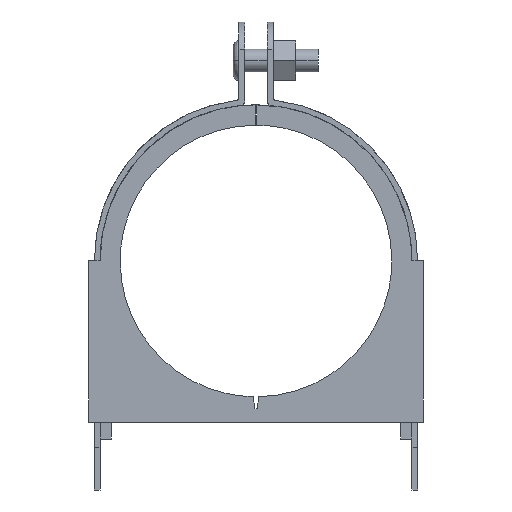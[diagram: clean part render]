
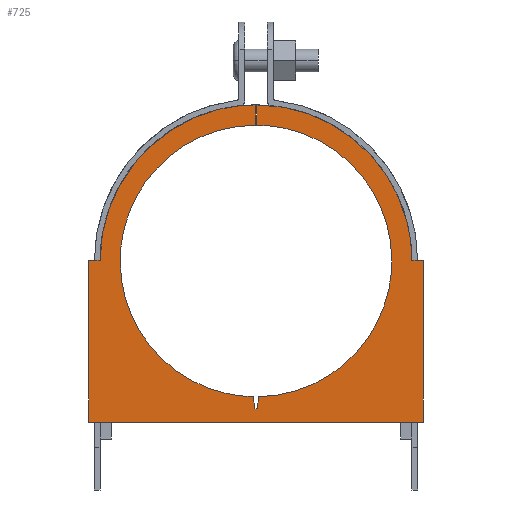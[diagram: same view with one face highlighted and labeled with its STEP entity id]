
A CAD part, front view. The second image highlights one B-rep face of the part: STEP entity #725.
In plain terms, the highlighted planar face has unit normal (0, -1, 0).
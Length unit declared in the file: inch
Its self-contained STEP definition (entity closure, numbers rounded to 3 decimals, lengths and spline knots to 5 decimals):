
#725=ADVANCED_FACE('',(#1429),#1430,.T.);
#1429=FACE_OUTER_BOUND('',#2876,.T.);
#1430=PLANE('',#2877);
#2876=EDGE_LOOP('',(#4141,#4142,#4143,#4144,#4145,#4146,#4147,#4148,#4149,#4150,#4151,#4152,#4153,#4154,#4155,#4156,#4157));
#2877=AXIS2_PLACEMENT_3D('',#4158,#4159,#4160);
#4141=ORIENTED_EDGE('',*,*,#4385,.F.);
#4142=ORIENTED_EDGE('',*,*,#4612,.F.);
#4143=ORIENTED_EDGE('',*,*,#4175,.F.);
#4144=ORIENTED_EDGE('',*,*,#4560,.F.);
#4145=ORIENTED_EDGE('',*,*,#4450,.F.);
#4146=ORIENTED_EDGE('',*,*,#4573,.F.);
#4147=ORIENTED_EDGE('',*,*,#4542,.F.);
#4148=ORIENTED_EDGE('',*,*,#4226,.F.);
#4149=ORIENTED_EDGE('',*,*,#4250,.F.);
#4150=ORIENTED_EDGE('',*,*,#4461,.F.);
#4151=ORIENTED_EDGE('',*,*,#4341,.F.);
#4152=ORIENTED_EDGE('',*,*,#4470,.F.);
#4153=ORIENTED_EDGE('',*,*,#4595,.F.);
#4154=ORIENTED_EDGE('',*,*,#4490,.F.);
#4155=ORIENTED_EDGE('',*,*,#4424,.F.);
#4156=ORIENTED_EDGE('',*,*,#4567,.F.);
#4157=ORIENTED_EDGE('',*,*,#4396,.F.);
#4158=CARTESIAN_POINT('',(1.78519,-0.125,2.37364));
#4159=DIRECTION('',(0.0,-1.0,0.0));
#4160=DIRECTION('',(1.0,0.0,0.0));
#4175=EDGE_CURVE('',#4636,#4637,#4638,.T.);
#4226=EDGE_CURVE('',#4730,#4731,#4732,.T.);
#4250=EDGE_CURVE('',#4768,#4730,#4769,.T.);
#4341=EDGE_CURVE('',#4905,#4906,#4907,.T.);
#4385=EDGE_CURVE('',#4963,#4964,#4965,.T.);
#4396=EDGE_CURVE('',#4964,#4980,#4981,.T.);
#4424=EDGE_CURVE('',#5018,#5019,#5020,.T.);
#4450=EDGE_CURVE('',#5051,#5052,#5053,.T.);
#4461=EDGE_CURVE('',#4906,#4768,#5068,.T.);
#4470=EDGE_CURVE('',#5079,#4905,#5080,.T.);
#4490=EDGE_CURVE('',#5019,#5105,#5106,.T.);
#4542=EDGE_CURVE('',#4731,#5171,#5172,.T.);
#4560=EDGE_CURVE('',#5052,#4636,#5192,.T.);
#4567=EDGE_CURVE('',#4980,#5018,#5199,.T.);
#4573=EDGE_CURVE('',#5171,#5051,#5205,.T.);
#4595=EDGE_CURVE('',#5105,#5079,#5227,.T.);
#4612=EDGE_CURVE('',#4637,#4963,#5245,.T.);
#4636=VERTEX_POINT('',#5271);
#4637=VERTEX_POINT('',#5272);
#4638=LINE('',#5273,#5274);
#4730=VERTEX_POINT('',#5433);
#4731=VERTEX_POINT('',#5434);
#4732=LINE('',#5435,#5436);
#4768=VERTEX_POINT('',#5494);
#4769=LINE('',#5495,#5496);
#4905=VERTEX_POINT('',#5733);
#4906=VERTEX_POINT('',#5734);
#4907=B_SPLINE_CURVE_WITH_KNOTS('',3,(#5735,#5736,#5737,#5738),.UNSPECIFIED.,.F.,.F.,(4,4),(0.0,1.0),.UNSPECIFIED.);
#4963=VERTEX_POINT('',#5841);
#4964=VERTEX_POINT('',#5842);
#4965=LINE('',#5843,#5844);
#4980=VERTEX_POINT('',#5890);
#4981=LINE('',#5891,#5892);
#5018=VERTEX_POINT('',#5961);
#5019=VERTEX_POINT('',#5962);
#5020=LINE('',#5963,#5964);
#5051=VERTEX_POINT('',#6017);
#5052=VERTEX_POINT('',#6018);
#5053=B_SPLINE_CURVE_WITH_KNOTS('',3,(#6019,#6020,#6021,#6022),.UNSPECIFIED.,.F.,.F.,(4,4),(0.0,1.0),.UNSPECIFIED.);
#5068=B_SPLINE_CURVE_WITH_KNOTS('',3,(#6050,#6051,#6052,#6053),.UNSPECIFIED.,.F.,.F.,(4,4),(0.0,1.0),.UNSPECIFIED.);
#5079=VERTEX_POINT('',#6093);
#5080=LINE('',#6094,#6095);
#5105=VERTEX_POINT('',#6140);
#5106=LINE('',#6141,#6142);
#5171=VERTEX_POINT('',#6264);
#5172=LINE('',#6265,#6266);
#5192=B_SPLINE_CURVE_WITH_KNOTS('',3,(#6296,#6297,#6298,#6299),.UNSPECIFIED.,.F.,.F.,(4,4),(0.0,1.0),.UNSPECIFIED.);
#5199=LINE('',#6312,#6313);
#5205=LINE('',#6321,#6322);
#5227=B_SPLINE_CURVE_WITH_KNOTS('',3,(#6369,#6370,#6371,#6372),.UNSPECIFIED.,.F.,.F.,(4,4),(0.0,1.0),.UNSPECIFIED.);
#5245=B_SPLINE_CURVE_WITH_KNOTS('',3,(#6425,#6426,#6427,#6428),.UNSPECIFIED.,.F.,.F.,(4,4),(0.0,1.0),.UNSPECIFIED.);
#5271=CARTESIAN_POINT('',(1.79103,-0.125,4.02991));
#5272=CARTESIAN_POINT('',(1.79083,-0.125,4.25477));
#5273=CARTESIAN_POINT('',(1.79103,-0.125,4.02991));
#5274=VECTOR('',#6454,1.0);
#5433=CARTESIAN_POINT('',(1.76983,-0.125,0.90297));
#5434=CARTESIAN_POINT('',(1.78551,-0.125,0.8985));
#5435=CARTESIAN_POINT('',(1.76983,-0.125,0.90297));
#5436=VECTOR('',#6485,1.);
#5494=CARTESIAN_POINT('',(1.75597,-0.125,1.03015));
#5495=CARTESIAN_POINT('',(1.75597,-0.125,1.03015));
#5496=VECTOR('',#6500,1.0);
#5733=CARTESIAN_POINT('',(1.77976,-0.125,4.02991));
#5734=CARTESIAN_POINT('',(0.2851,-0.125,2.52995));
#5735=CARTESIAN_POINT('',(1.77976,-0.125,4.02991));
#5736=CARTESIAN_POINT('',(0.95379,-0.125,4.02701));
#5737=CARTESIAN_POINT('',(0.2851,-0.125,3.35659));
#5738=CARTESIAN_POINT('',(0.2851,-0.125,2.52995));
#5841=CARTESIAN_POINT('',(3.50765,-0.125,2.53688));
#5842=CARTESIAN_POINT('',(3.63283,-0.125,2.53692));
#5843=CARTESIAN_POINT('',(3.50765,-0.125,2.53688));
#5844=VECTOR('',#6578,1.0);
#5890=CARTESIAN_POINT('',(3.63283,-0.125,0.75));
#5891=CARTESIAN_POINT('',(3.63283,-0.125,2.53692));
#5892=VECTOR('',#6583,1.0);
#5961=CARTESIAN_POINT('',(-0.06255,-0.125,0.75));
#5962=CARTESIAN_POINT('',(-0.06255,-0.125,2.53692));
#5963=CARTESIAN_POINT('',(-0.06255,-0.125,0.75));
#5964=VECTOR('',#6593,1.0);
#6017=CARTESIAN_POINT('',(1.8131,-0.125,1.03014));
#6018=CARTESIAN_POINT('',(3.2851,-0.125,2.52995));
#6019=CARTESIAN_POINT('',(1.8131,-0.125,1.03014));
#6020=CARTESIAN_POINT('',(2.62861,-0.125,1.04507));
#6021=CARTESIAN_POINT('',(3.2851,-0.125,1.71087));
#6022=CARTESIAN_POINT('',(3.2851,-0.125,2.52995));
#6050=CARTESIAN_POINT('',(0.2851,-0.125,2.52995));
#6051=CARTESIAN_POINT('',(0.2851,-0.125,1.7113));
#6052=CARTESIAN_POINT('',(0.94106,-0.125,1.04576));
#6053=CARTESIAN_POINT('',(1.75597,-0.125,1.03015));
#6093=CARTESIAN_POINT('',(1.77954,-0.125,4.25477));
#6094=CARTESIAN_POINT('',(1.77954,-0.125,4.25477));
#6095=VECTOR('',#6618,1.0);
#6140=CARTESIAN_POINT('',(0.06262,-0.125,2.53686));
#6141=CARTESIAN_POINT('',(-0.06255,-0.125,2.53692));
#6142=VECTOR('',#6630,1.0);
#6264=CARTESIAN_POINT('',(1.80116,-0.125,0.90297));
#6265=CARTESIAN_POINT('',(1.78551,-0.125,0.8985));
#6266=VECTOR('',#6661,1.);
#6296=CARTESIAN_POINT('',(3.2851,-0.125,2.52995));
#6297=CARTESIAN_POINT('',(3.2851,-0.125,3.35641));
#6298=CARTESIAN_POINT('',(2.61674,-0.125,4.02672));
#6299=CARTESIAN_POINT('',(1.79103,-0.125,4.02991));
#6312=CARTESIAN_POINT('',(3.63283,-0.125,0.75));
#6313=VECTOR('',#6675,1.0);
#6321=CARTESIAN_POINT('',(1.80116,-0.125,0.90297));
#6322=VECTOR('',#6678,1.);
#6369=CARTESIAN_POINT('',(0.06262,-0.125,2.53686));
#6370=CARTESIAN_POINT('',(0.06608,-0.125,3.48304));
#6371=CARTESIAN_POINT('',(0.83406,-0.125,4.25115));
#6372=CARTESIAN_POINT('',(1.77954,-0.125,4.25477));
#6425=CARTESIAN_POINT('',(1.79083,-0.125,4.25477));
#6426=CARTESIAN_POINT('',(2.73727,-0.125,4.25232));
#6427=CARTESIAN_POINT('',(3.50418,-0.125,3.48379));
#6428=CARTESIAN_POINT('',(3.50765,-0.125,2.53688));
#6454=DIRECTION('',(-0.001,0.0,1.));
#6485=DIRECTION('',(0.962,0.0,-0.274));
#6500=DIRECTION('',(0.108,0.0,-0.994));
#6578=DIRECTION('',(1.,0.0,0.));
#6583=DIRECTION('',(0.0,0.0,-1.0));
#6593=DIRECTION('',(0.0,0.0,1.0));
#6618=DIRECTION('',(0.001,0.0,-1.));
#6630=DIRECTION('',(1.,0.0,0.));
#6661=DIRECTION('',(0.962,0.0,0.274));
#6675=DIRECTION('',(-1.0,0.0,0.0));
#6678=DIRECTION('',(0.093,0.0,0.996));
